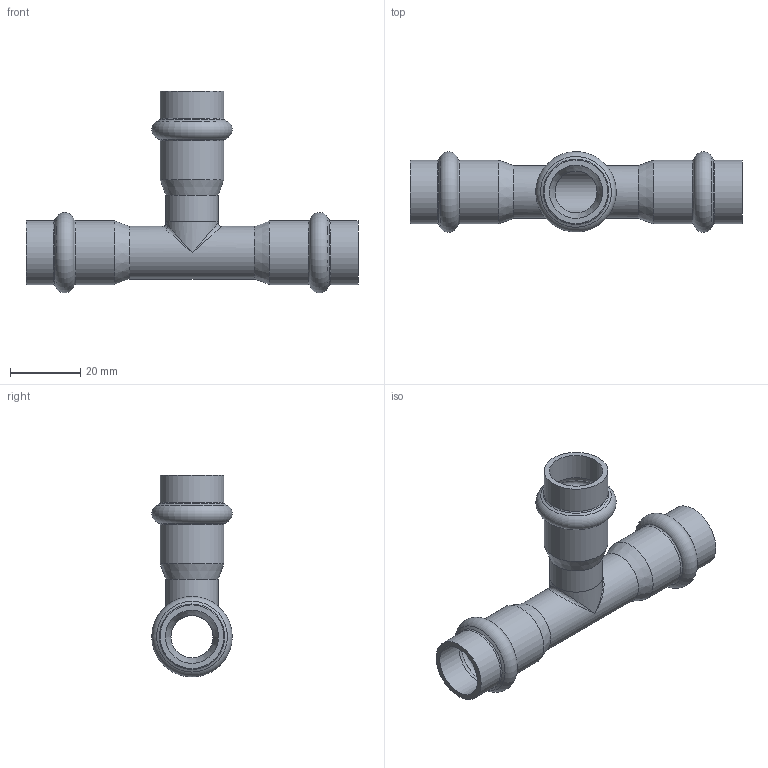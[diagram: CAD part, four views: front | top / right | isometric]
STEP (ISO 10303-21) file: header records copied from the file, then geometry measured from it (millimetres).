
FILE_DESCRIPTION((''),'2;1');
FILE_NAME('G:\Nirosan-Schmiedefeld\Technics\CAD\Bauteile VA\015\6913015(1).stp','2011-10-26T11:56:09',('herberg'),(''),'Autodesk Inventor 2009','Autodesk Inventor 2009','');
FILE_SCHEMA(('AUTOMOTIVE_DESIGN { 1 0 10303 214 1 1 1 1 }'));
Length unit declared in the file: millimetre
Products named in the file (3): 6913015(1); LM_6913015(2); HM_6913015(2)
Assembly tree (2 placements, depth 2):
  6913015(1)
    LM_6913015(2)
    HM_6913015(2)
Bounding box: 94.5 x 22.9 x 57.45 mm (x, y, z)
Volume: 10449.3 mm3; surface area: 14289.7 mm2
Topology: 2 solids, 2 shells, 57 faces, 126 edges, 64 vertices
Faces by surface type: cylinder 18, bspline 16, cone 12, torus 6, plane 5
Full cylindrical faces by diameter (mm): 12 x3, 15 x3, 15.15 x6, 18.15 x6
Entity records: 2312 total; most frequent: CARTESIAN_POINT 1298, DIRECTION 212, ORIENTED_EDGE 120, EDGE_LOOP 112, AXIS2_PLACEMENT_3D 106, EDGE_CURVE 60, FACE_OUTER_BOUND 57, ADVANCED_FACE 57
